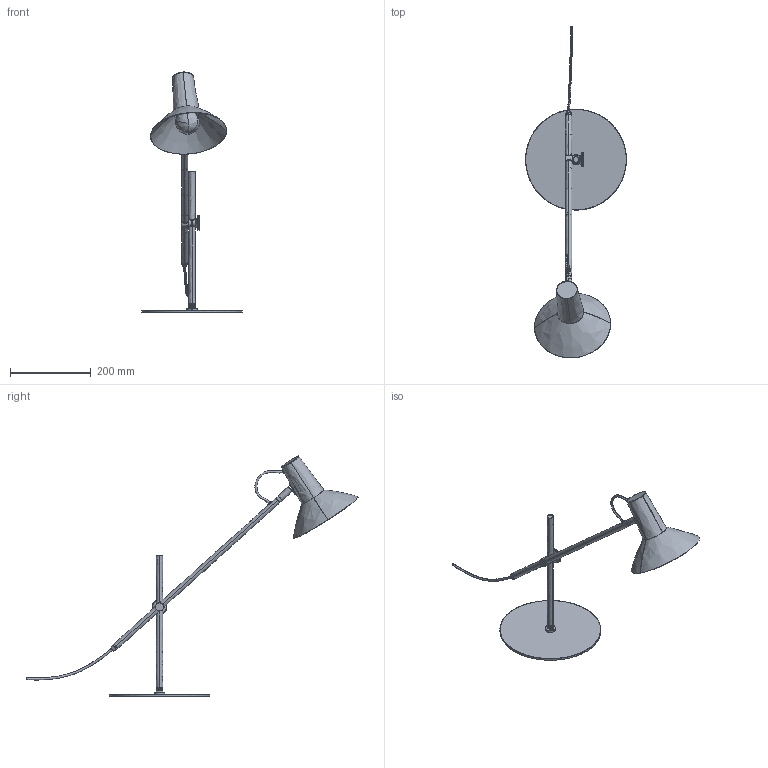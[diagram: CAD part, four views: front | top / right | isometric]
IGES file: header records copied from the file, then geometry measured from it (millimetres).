
Start section: SolidWorks IGES file using analytic representation for surfaces
Global section: file name: C:\Users\adrian\Desktop\Nueva Coleccion Septiembre 2026\HUDO\HUDO_S1366\HUDO_S1366.IGS; native system: SolidWorks 2023; preprocessor: SolidWorks 2023; author: adrian; date: 260616.171118; units: millimetre
Bounding box: 250 x 823.64 x 595.62 mm (x, y, z)
Surface area: 337665.1 mm2 (no closed solid volume)
Topology: 0 solids, 0 shells, 742 faces, 7472 edges, 7466 vertices
Faces by surface type: bspline 742
